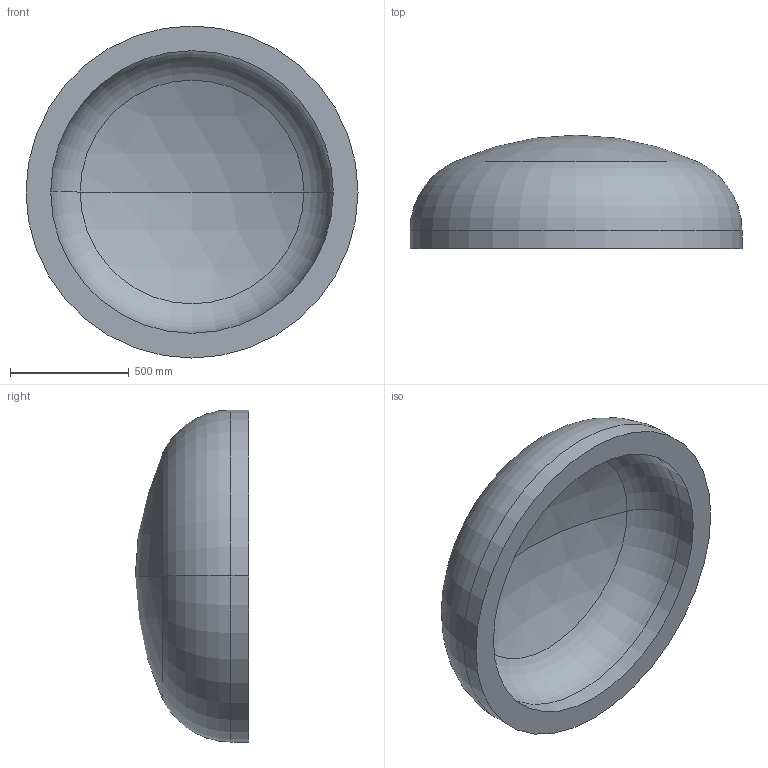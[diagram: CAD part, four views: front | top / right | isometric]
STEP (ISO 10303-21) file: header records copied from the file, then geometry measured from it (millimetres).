
FILE_DESCRIPTION (( 'STEP AP203' ), '1' );
FILE_NAME ('DIN 28013 Korbbogenform_-_Boden DIN 28013 - 1400 x 75 - I - s=104.step', '2016-07-01T10:29:41', ( '' ), ( '' ), 'SwSTEP 2.0', 'SolidWorks 2013', '' );
FILE_SCHEMA (( 'CONFIG_CONTROL_DESIGN' ));
Length unit declared in the file: millimetre
Products named in the file (1): DIN 28013 Korbbogenform_-_Boden DIN 28013 - 1400 x 75 - I - s=104
Bounding box: 1400 x 478.11 x 1400 mm (x, y, z)
Volume: 233549482.1 mm3; surface area: 4937424.6 mm2
Topology: 1 solids, 1 shells, 13 faces, 24 edges, 14 vertices
Faces by surface type: torus 4, cylinder 4, sphere 4, plane 1
Entity records: 407 total; most frequent: DIRECTION 72, CARTESIAN_POINT 52, ORIENTED_EDGE 48, AXIS2_PLACEMENT_3D 34, EDGE_CURVE 24, CIRCLE 20, VERTEX_POINT 14, EDGE_LOOP 14
